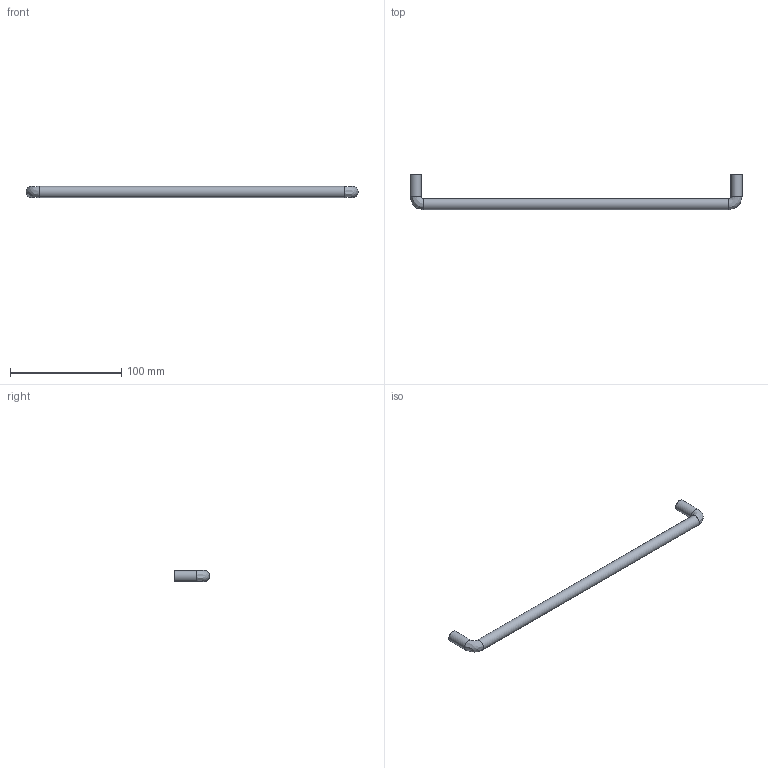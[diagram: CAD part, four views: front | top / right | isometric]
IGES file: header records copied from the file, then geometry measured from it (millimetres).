
Start section: Data from Parasolid IGES Translator 15.0.47, Copyright(c) 2006 Siemens P LM Software. All Rights Reserved.
Global section: file name: 9069922.igs; native system:  By UGS Corp.; preprocessor: XPlus GENERIC/IGES 3.0; author: Noname; organization: Noname; date: 20140122.154338; units: millimetre
Bounding box: 298 x 32 x 10 mm (x, y, z)
Surface area: 10888.5 mm2 (no closed solid volume)
Topology: 0 solids, 0 shells, 11 faces, 42 edges, 38 vertices
Faces by surface type: revolution 7, extrusion 4
